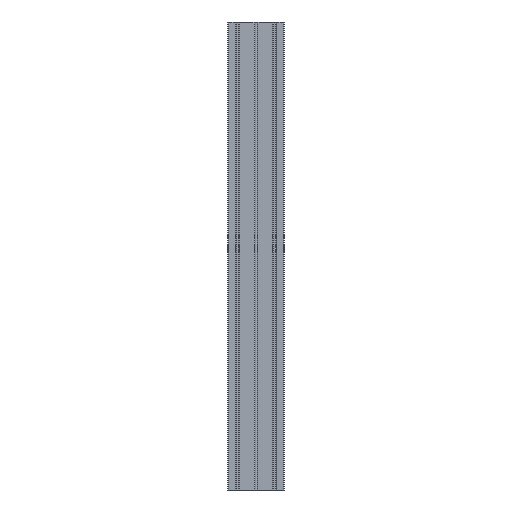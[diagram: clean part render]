
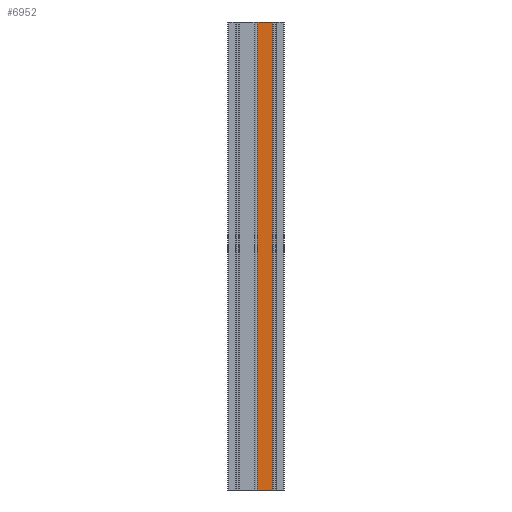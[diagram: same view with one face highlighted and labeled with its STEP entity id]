
A CAD part, front view. The second image highlights one B-rep face of the part: STEP entity #6952.
In plain terms, the highlighted planar face has unit normal (0, -1, 0).
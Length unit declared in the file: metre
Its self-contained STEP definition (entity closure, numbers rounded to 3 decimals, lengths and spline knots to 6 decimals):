
#855=FACE_OUTER_BOUND('',#1207,.T.);
#1207=EDGE_LOOP('',(#5613,#5614,#5615,#5616));
#1871=LINE('',#11610,#2567);
#1872=LINE('',#11613,#2568);
#1873=LINE('',#11615,#2569);
#1874=LINE('',#11616,#2570);
#2567=VECTOR('',#9536,1.);
#2568=VECTOR('',#9539,0.0317);
#2569=VECTOR('',#9540,0.0317);
#2570=VECTOR('',#9541,1.);
#3273=VERTEX_POINT('',#11606);
#3274=VERTEX_POINT('',#11608);
#3275=VERTEX_POINT('',#11612);
#3276=VERTEX_POINT('',#11614);
#4271=EDGE_CURVE('',#3273,#3274,#1871,.T.);
#4272=EDGE_CURVE('',#3275,#3273,#1872,.T.);
#4273=EDGE_CURVE('',#3276,#3274,#1873,.T.);
#4274=EDGE_CURVE('',#3275,#3276,#1874,.T.);
#5613=ORIENTED_EDGE('',*,*,#4272,.T.);
#5614=ORIENTED_EDGE('',*,*,#4271,.T.);
#5615=ORIENTED_EDGE('',*,*,#4273,.F.);
#5616=ORIENTED_EDGE('',*,*,#4274,.F.);
#6617=PLANE('',#7618);
#6952=ADVANCED_FACE('',(#855),#6617,.T.);
#7618=AXIS2_PLACEMENT_3D('',#11611,#9537,#9538);
#9536=DIRECTION('',(0.,0.,1.));
#9537=DIRECTION('center_axis',(0.,-1.,0.));
#9538=DIRECTION('ref_axis',(0.,0.,-1.));
#9539=DIRECTION('',(1.,0.,0.));
#9540=DIRECTION('',(1.,0.,0.));
#9541=DIRECTION('',(0.,0.,1.));
#11606=CARTESIAN_POINT('',(0.03585,-0.02,0.));
#11608=CARTESIAN_POINT('',(0.03585,-0.02,1.));
#11610=CARTESIAN_POINT('',(0.03585,-0.02,0.));
#11611=CARTESIAN_POINT('Origin',(0.00415,-0.02,0.));
#11612=CARTESIAN_POINT('',(0.00415,-0.02,0.));
#11613=CARTESIAN_POINT('',(0.00415,-0.02,0.));
#11614=CARTESIAN_POINT('',(0.00415,-0.02,1.));
#11615=CARTESIAN_POINT('',(0.00415,-0.02,1.));
#11616=CARTESIAN_POINT('',(0.00415,-0.02,0.));
